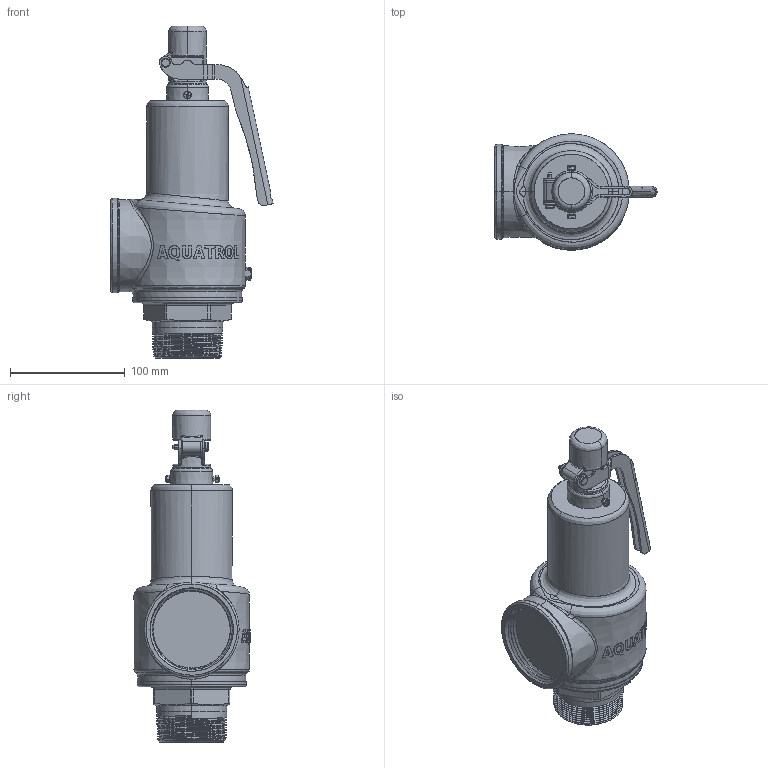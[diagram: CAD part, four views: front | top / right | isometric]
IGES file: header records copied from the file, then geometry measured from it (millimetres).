
Start section: SolidWorks IGES file using analytic representation for surfaces
Global section: file name: C:\Design\Design\Aquatrol\Customer 3D Files\Series 88 Customer Files\Series 88 2000 x 2500\Customer\Series 88 2000 x 2500.IGS; native system: SolidWorks 2015; preprocessor: SolidWorks 2015; author: Karl; date: 141208.101832; units: inch
Bounding box: 141.24 x 101.21 x 289.18 mm (x, y, z)
Surface area: 102248.4 mm2 (no closed solid volume)
Topology: 0 solids, 0 shells, 416 faces, 8492 edges, 8492 vertices
Faces by surface type: bspline 235, revolution 181
